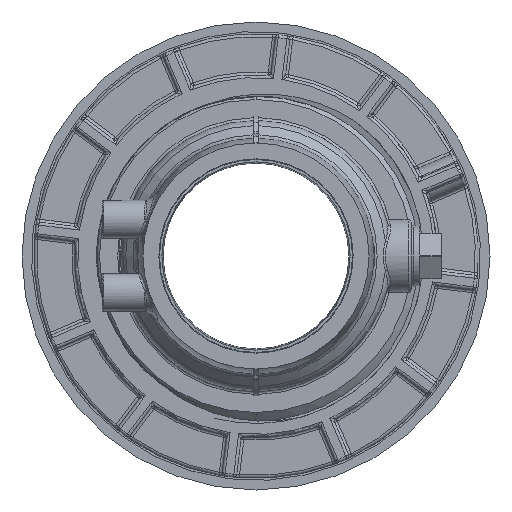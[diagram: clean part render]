
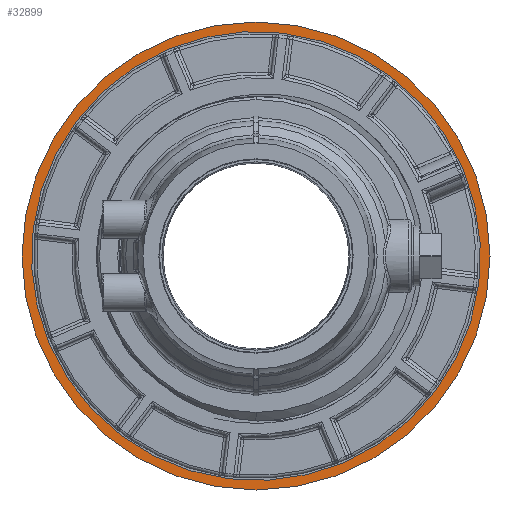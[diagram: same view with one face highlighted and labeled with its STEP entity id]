
A CAD part, front view. The second image highlights one B-rep face of the part: STEP entity #32899.
In plain terms, the highlighted planar face has unit normal (0, -1, 0).
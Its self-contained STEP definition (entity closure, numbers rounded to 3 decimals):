
#3733 = CARTESIAN_POINT ( 'NONE',  ( -4.151, 52.954, -85.139 ) ) ;
#3783 = CIRCLE ( 'NONE', #3799, 80. ) ;
#3799 = AXIS2_PLACEMENT_3D ( 'NONE', #3896, #3895, #3893 ) ;
#3893 = DIRECTION ( 'NONE',  ( 0., 0., -1. ) ) ;
#3895 = DIRECTION ( 'NONE',  ( 0., -1., 0. ) ) ;
#3896 = CARTESIAN_POINT ( 'NONE',  ( -4.151, 52.954, -5.139 ) ) ;
#4353 = CARTESIAN_POINT ( 'NONE',  ( -4.151, 52.954, 74.861 ) ) ;
#6847 = CARTESIAN_POINT ( 'NONE',  ( -84.151, 52.954, -5.139 ) ) ;
#6940 = PLANE ( 'NONE',  #7098 ) ;
#7013 = DIRECTION ( 'NONE',  ( 0., 1., 0. ) ) ;
#7030 = DIRECTION ( 'NONE',  ( 0., 0., 1. ) ) ;
#7091 = DIRECTION ( 'NONE',  ( 0., 0., 1. ) ) ;
#7092 = DIRECTION ( 'NONE',  ( 0., -1., 0. ) ) ;
#7098 = AXIS2_PLACEMENT_3D ( 'NONE', #6847, #7013, #7030 ) ;
#7100 = CARTESIAN_POINT ( 'NONE',  ( -4.151, 52.954, -5.139 ) ) ;
#7102 = AXIS2_PLACEMENT_3D ( 'NONE', #7100, #7092, #7091 ) ;
#7103 = CIRCLE ( 'NONE', #7102, 76.75 ) ;
#7287 = CIRCLE ( 'NONE', #7393, 80. ) ;
#7288 = FACE_OUTER_BOUND ( 'NONE', #32895, .T. ) ;
#7393 = AXIS2_PLACEMENT_3D ( 'NONE', #7434, #7432, #7430 ) ;
#7430 = DIRECTION ( 'NONE',  ( 0., 0., -1. ) ) ;
#7432 = DIRECTION ( 'NONE',  ( 0., -1., 0. ) ) ;
#7434 = CARTESIAN_POINT ( 'NONE',  ( -4.151, 52.954, -5.139 ) ) ;
#7439 = FACE_BOUND ( 'NONE', #32841, .T. ) ;
#21553 = AXIS2_PLACEMENT_3D ( 'NONE', #21654, #21653, #21652 ) ;
#21652 = DIRECTION ( 'NONE',  ( 0., 0., 1. ) ) ;
#21653 = DIRECTION ( 'NONE',  ( 0., -1., 0. ) ) ;
#21654 = CARTESIAN_POINT ( 'NONE',  ( -4.151, 52.954, -5.139 ) ) ;
#21657 = CIRCLE ( 'NONE', #21553, 76.75 ) ;
#26667 = VERTEX_POINT ( 'NONE', #44678 ) ;
#26754 = VERTEX_POINT ( 'NONE', #44865 ) ;
#32458 = VERTEX_POINT ( 'NONE', #3733 ) ;
#32476 = EDGE_CURVE ( 'NONE', #32458, #32543, #3783, .T. ) ;
#32543 = VERTEX_POINT ( 'NONE', #4353 ) ;
#32840 = ORIENTED_EDGE ( 'NONE', *, *, #32890, .T. ) ;
#32841 = EDGE_LOOP ( 'NONE', ( #32843, #32844 ) ) ;
#32843 = ORIENTED_EDGE ( 'NONE', *, *, #32901, .F. ) ;
#32844 = ORIENTED_EDGE ( 'NONE', *, *, #34949, .F. ) ;
#32890 = EDGE_CURVE ( 'NONE', #32543, #32458, #7287, .T. ) ;
#32895 = EDGE_LOOP ( 'NONE', ( #32902, #32840 ) ) ;
#32899 = ADVANCED_FACE ( 'NONE', ( #7288, #7439 ), #6940, .F. ) ;
#32901 = EDGE_CURVE ( 'NONE', #26667, #26754, #7103, .T. ) ;
#32902 = ORIENTED_EDGE ( 'NONE', *, *, #32476, .T. ) ;
#34949 = EDGE_CURVE ( 'NONE', #26754, #26667, #21657, .T. ) ;
#44678 = CARTESIAN_POINT ( 'NONE',  ( -46.128, 52.954, 59.113 ) ) ;
#44865 = CARTESIAN_POINT ( 'NONE',  ( 37.827, 52.954, -69.392 ) ) ;
